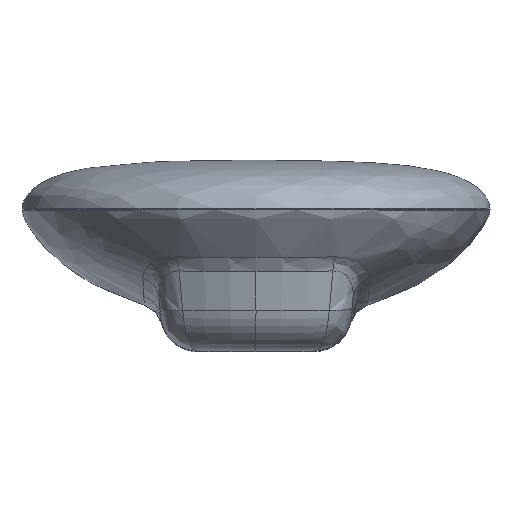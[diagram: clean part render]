
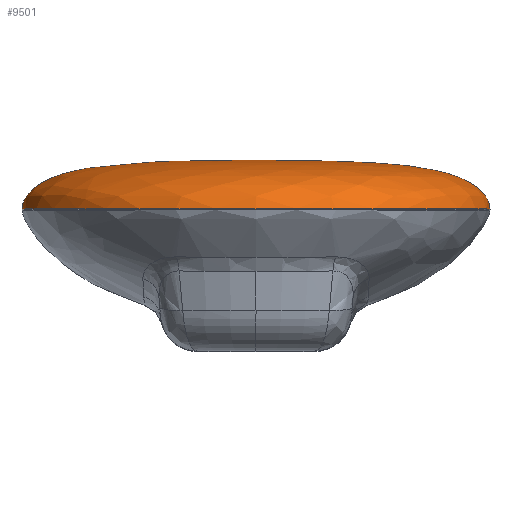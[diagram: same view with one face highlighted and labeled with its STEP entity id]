
A CAD part, top view. The second image highlights one B-rep face of the part: STEP entity #9501.
In plain terms, the highlighted free-form (B-spline) face has degree [3, 3] with [4, 5] control points.
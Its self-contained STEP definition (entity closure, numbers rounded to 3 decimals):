
#119 = FACE_OUTER_BOUND ( 'NONE', #8877, .T. ) ;
#249 = CARTESIAN_POINT ( 'NONE',  ( -42.22, 13.239, 0.055 ) ) ;
#1229 = CARTESIAN_POINT ( 'NONE',  ( -42.243, 12.444, 0.055 ) ) ;
#1286 = CARTESIAN_POINT ( 'NONE',  ( -39.215, 19.978, 0.055 ) ) ;
#1302 = CARTESIAN_POINT ( 'NONE',  ( -24.147, 20.341, 0.055 ) ) ;
#1322 = CARTESIAN_POINT ( 'NONE',  ( -4.245, 20.341, 0.055 ) ) ;
#3648 = DIRECTION ( 'NONE',  ( -1., 0., 0. ) ) ;
#3651 = DIRECTION ( 'NONE',  ( 0., 1., 0. ) ) ;
#3670 = CARTESIAN_POINT ( 'NONE',  ( -4.245, 12.444, 0.055 ) ) ;
#5096 = CARTESIAN_POINT ( 'NONE',  ( -42.243, 12.444, 0.055 ) ) ;
#5442 = CIRCLE ( 'NONE', #10298, 37.999 ) ;
#6092 = CARTESIAN_POINT ( 'NONE',  ( 33.754, 12.444, 0.055 ) ) ;
#6126 = CARTESIAN_POINT ( 'NONE',  ( 33.73, 13.239, 0.055 ) ) ;
#6142 = CARTESIAN_POINT ( 'NONE',  ( 30.725, 19.978, 0.055 ) ) ;
#6165 = CARTESIAN_POINT ( 'NONE',  ( 15.657, 20.341, 0.055 ) ) ;
#6191 = CARTESIAN_POINT ( 'NONE',  ( -4.245, 20.341, 0.055 ) ) ;
#6211 = CARTESIAN_POINT ( 'NONE',  ( 33.754, 12.444, 76.052 ) ) ;
#6249 = CARTESIAN_POINT ( 'NONE',  ( 33.73, 13.239, 76.006 ) ) ;
#6273 = CARTESIAN_POINT ( 'NONE',  ( 30.725, 19.978, 69.995 ) ) ;
#6307 = CARTESIAN_POINT ( 'NONE',  ( 15.657, 20.341, 39.859 ) ) ;
#6324 = CARTESIAN_POINT ( 'NONE',  ( -4.245, 20.341, 0.055 ) ) ;
#6346 = CARTESIAN_POINT ( 'NONE',  ( -42.243, 12.444, 76.052 ) ) ;
#6367 = CARTESIAN_POINT ( 'NONE',  ( -42.22, 13.239, 76.006 ) ) ;
#6387 = CARTESIAN_POINT ( 'NONE',  ( -39.215, 19.978, 69.995 ) ) ;
#6418 = EDGE_CURVE ( 'NONE', #13976, #10221, #13708, .T. ) ;
#6424 = CARTESIAN_POINT ( 'NONE',  ( -24.147, 20.341, 39.859 ) ) ;
#6447 = CARTESIAN_POINT ( 'NONE',  ( -4.245, 20.341, 0.055 ) ) ;
#6486 = CARTESIAN_POINT ( 'NONE',  ( -42.243, 12.444, 0.055 ) ) ;
#6508 = CARTESIAN_POINT ( 'NONE',  ( -42.22, 13.239, 0.055 ) ) ;
#6522 = EDGE_CURVE ( 'NONE', #13476, #13976, #13929, .T. ) ;
#6523 = CARTESIAN_POINT ( 'NONE',  ( -4.245, 20.341, 0.055 ) ) ;
#6624 = CARTESIAN_POINT ( 'NONE',  ( -24.147, 20.341, 0.055 ) ) ;
#6791 = CARTESIAN_POINT ( 'NONE',  ( -39.215, 19.978, 0.055 ) ) ;
#7158 = EDGE_CURVE ( 'NONE', #13476, #10221, #5442, .T. ) ;
#8877 = EDGE_LOOP ( 'NONE', ( #11756, #11827, #11812 ) ) ;
#9501 = ADVANCED_FACE ( 'NONE', ( #119 ), #12889, .T. ) ;
#9549 = CARTESIAN_POINT ( 'NONE',  ( 33.754, 12.444, 0.055 ) ) ;
#10221 = VERTEX_POINT ( 'NONE', #9549 ) ;
#10298 = AXIS2_PLACEMENT_3D ( 'NONE', #3670, #3651, #3648 ) ;
#11490 = CARTESIAN_POINT ( 'NONE',  ( -4.245, 20.341, 0.055 ) ) ;
#11756 = ORIENTED_EDGE ( 'NONE', *, *, #7158, .F. ) ;
#11812 = ORIENTED_EDGE ( 'NONE', *, *, #6418, .T. ) ;
#11827 = ORIENTED_EDGE ( 'NONE', *, *, #6522, .T. ) ;
#12889 =( BOUNDED_SURFACE ( )  B_SPLINE_SURFACE ( 3, 3, ( 
 ( #6523, #6624, #6791, #6508, #6486 ),
 ( #6447, #6424, #6387, #6367, #6346 ),
 ( #6324, #6307, #6273, #6249, #6211 ),
 ( #6191, #6165, #6142, #6126, #6092 ) ),
 .UNSPECIFIED., .F., .F., .T. ) 
 B_SPLINE_SURFACE_WITH_KNOTS ( ( 4, 4 ),
 ( 4, 1, 4 ),
 ( 0., 1. ),
 ( 0.487, 0.777, 0.808 ),
 .UNSPECIFIED. ) 
 GEOMETRIC_REPRESENTATION_ITEM ( )  RATIONAL_B_SPLINE_SURFACE ( (
 ( 1., 1., 1., 1., 1.),
 ( 0.333, 0.333, 0.333, 0.333, 0.333),
 ( 0.333, 0.333, 0.333, 0.333, 0.333),
 ( 1., 1., 1., 1., 1.) ) ) 
 REPRESENTATION_ITEM ( '' )  SURFACE ( )  );
#13241 = CARTESIAN_POINT ( 'NONE',  ( 33.754, 12.444, 0.055 ) ) ;
#13264 = CARTESIAN_POINT ( 'NONE',  ( 33.73, 13.239, 0.055 ) ) ;
#13302 = CARTESIAN_POINT ( 'NONE',  ( -4.245, 20.341, 0.055 ) ) ;
#13377 = CARTESIAN_POINT ( 'NONE',  ( 15.657, 20.341, 0.055 ) ) ;
#13476 = VERTEX_POINT ( 'NONE', #5096 ) ;
#13708 = B_SPLINE_CURVE_WITH_KNOTS ( 'NONE', 3,
 ( #13302, #13377, #14574, #13264, #13241 ),
 .UNSPECIFIED., .F., .F.,
 ( 4, 1, 4 ),
 ( 0.487, 0.777, 0.808 ),
 .UNSPECIFIED. ) ;
#13929 = B_SPLINE_CURVE_WITH_KNOTS ( 'NONE', 3,
 ( #1229, #249, #1286, #1302, #1322 ),
 .UNSPECIFIED., .F., .F.,
 ( 4, 1, 4 ),
 ( 0.487, 0.518, 0.808 ),
 .UNSPECIFIED. ) ;
#13976 = VERTEX_POINT ( 'NONE', #11490 ) ;
#14574 = CARTESIAN_POINT ( 'NONE',  ( 30.725, 19.978, 0.055 ) ) ;
